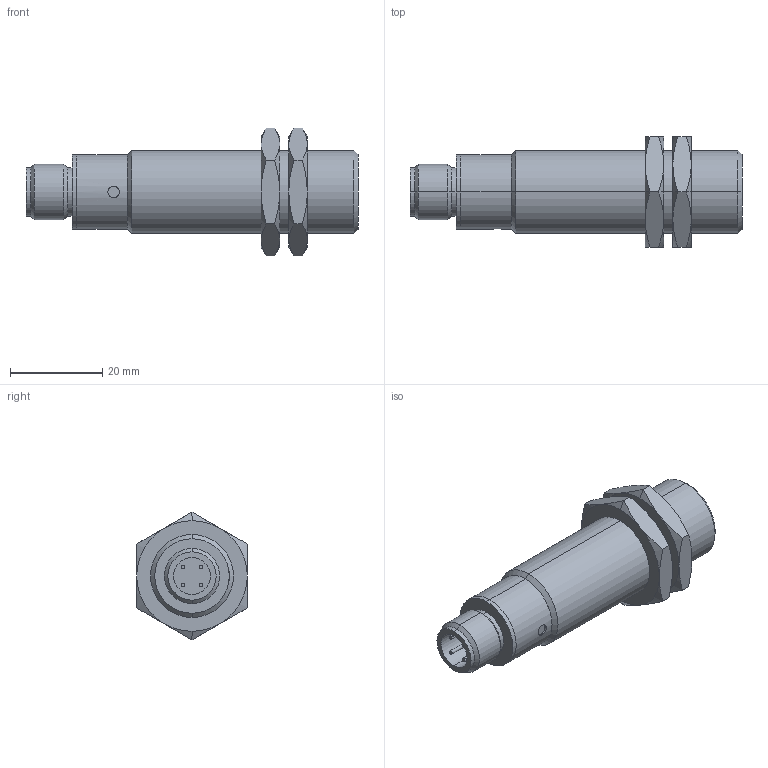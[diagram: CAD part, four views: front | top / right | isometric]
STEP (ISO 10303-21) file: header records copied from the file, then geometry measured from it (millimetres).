
FILE_DESCRIPTION(('starvars output'),'2;1');
FILE_NAME('IG5788_3.stp','15:46:46 2007/04/16',( 'Thomas Industrial Network Germany GmbH'),( 'Thomas Industrial Network Germany GmbH'),'unknown preprocess','ACIS' ,'unknown authorization');
FILE_SCHEMA(('CONFIG_CONTROL_DESIGN {UNKNOWN IMPLEMENTATION LEVEL}'));
Length unit declared in the file: millimetre
Products named in the file (6): PRODUCT_ID_61; PRODUCT_ID_62; PRODUCT_ID_63; PRODUCT_ID_64; PRODUCT_ID_65; PRODUCT_ID_66
Bounding box: 72 x 24 x 27.71 mm (x, y, z)
Volume: 17904.6 mm3; surface area: 7964 mm2
Topology: 7 solids, 7 shells, 107 faces, 213 edges, 127 vertices
Faces by surface type: cone 40, plane 33, cylinder 32, torus 2
Entity records: 2711 total; most frequent: CARTESIAN_POINT 467, ORIENTED_EDGE 426, DIRECTION 256, EDGE_CURVE 213, VERTEX_POINT 127, EDGE_LOOP 118, FACE_BOUND 118, ADVANCED_FACE 107
